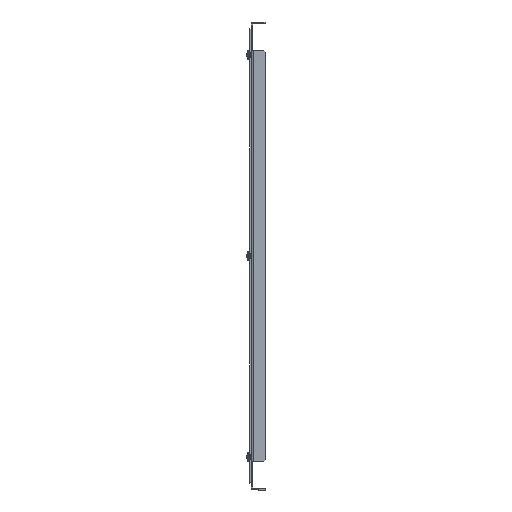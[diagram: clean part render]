
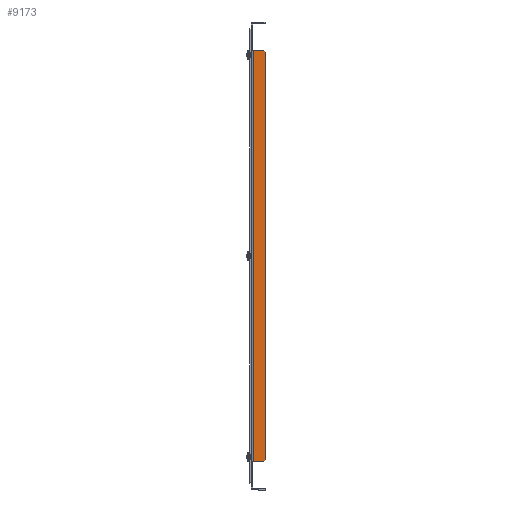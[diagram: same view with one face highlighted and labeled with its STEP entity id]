
A CAD part, left-side view. The second image highlights one B-rep face of the part: STEP entity #9173.
In plain terms, the highlighted planar face has unit normal (-1, 0, 0).
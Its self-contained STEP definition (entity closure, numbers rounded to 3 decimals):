
#263 = LINE ( 'NONE', #2356, #5939 ) ;
#474 = CARTESIAN_POINT ( 'NONE',  ( -14., -2.1, 218. ) ) ;
#625 = LINE ( 'NONE', #1698, #6523 ) ;
#645 = EDGE_CURVE ( 'NONE', #4083, #6155, #5982, .T. ) ;
#665 = PLANE ( 'NONE',  #4617 ) ;
#741 = ORIENTED_EDGE ( 'NONE', *, *, #9908, .F. ) ;
#805 = DIRECTION ( 'NONE',  ( 0., -1., 0. ) ) ;
#838 = CARTESIAN_POINT ( 'NONE',  ( -14., -1.5, 218. ) ) ;
#855 = DIRECTION ( 'NONE',  ( 0., 0., -1. ) ) ;
#993 = EDGE_CURVE ( 'NONE', #9284, #7739, #5852, .T. ) ;
#1449 = DIRECTION ( 'NONE',  ( 1., 0., 0. ) ) ;
#1474 = ORIENTED_EDGE ( 'NONE', *, *, #3842, .T. ) ;
#1594 = CARTESIAN_POINT ( 'NONE',  ( -14., -15., 218. ) ) ;
#1602 = DIRECTION ( 'NONE',  ( 0., -0.707, 0.707 ) ) ;
#1698 = CARTESIAN_POINT ( 'NONE',  ( -14., -15., -216. ) ) ;
#2156 = FACE_OUTER_BOUND ( 'NONE', #6092, .T. ) ;
#2178 = VERTEX_POINT ( 'NONE', #9965 ) ;
#2356 = CARTESIAN_POINT ( 'NONE',  ( -14., -2.1, 218. ) ) ;
#3166 = CARTESIAN_POINT ( 'NONE',  ( -14., -15., 216. ) ) ;
#3234 = CARTESIAN_POINT ( 'NONE',  ( -14., -13., 218. ) ) ;
#3381 = ORIENTED_EDGE ( 'NONE', *, *, #4454, .F. ) ;
#3477 = DIRECTION ( 'NONE',  ( 0., 1., 0. ) ) ;
#3500 = CARTESIAN_POINT ( 'NONE',  ( -14., -15., -218. ) ) ;
#3842 = EDGE_CURVE ( 'NONE', #9284, #2178, #625, .T. ) ;
#3957 = LINE ( 'NONE', #8537, #10055 ) ;
#4062 = CARTESIAN_POINT ( 'NONE',  ( -14., -13., -218. ) ) ;
#4083 = VERTEX_POINT ( 'NONE', #474 ) ;
#4271 = LINE ( 'NONE', #1594, #8260 ) ;
#4454 = EDGE_CURVE ( 'NONE', #8576, #2178, #4271, .T. ) ;
#4617 = AXIS2_PLACEMENT_3D ( 'NONE', #7841, #1449, #7076 ) ;
#4804 = DIRECTION ( 'NONE',  ( 0., 0., 1. ) ) ;
#5042 = ORIENTED_EDGE ( 'NONE', *, *, #645, .F. ) ;
#5299 = ORIENTED_EDGE ( 'NONE', *, *, #7242, .T. ) ;
#5852 = LINE ( 'NONE', #3500, #9539 ) ;
#5939 = VECTOR ( 'NONE', #4804, 1000. ) ;
#5982 = LINE ( 'NONE', #838, #8073 ) ;
#6092 = EDGE_LOOP ( 'NONE', ( #10222, #1474, #3381, #5299, #5042, #741 ) ) ;
#6155 = VERTEX_POINT ( 'NONE', #3234 ) ;
#6523 = VECTOR ( 'NONE', #1602, 1000. ) ;
#7076 = DIRECTION ( 'NONE',  ( 0., 1., 0. ) ) ;
#7242 = EDGE_CURVE ( 'NONE', #8576, #6155, #3957, .T. ) ;
#7739 = VERTEX_POINT ( 'NONE', #10071 ) ;
#7841 = CARTESIAN_POINT ( 'NONE',  ( -14., 0., 0. ) ) ;
#8073 = VECTOR ( 'NONE', #805, 1000. ) ;
#8260 = VECTOR ( 'NONE', #855, 1000. ) ;
#8537 = CARTESIAN_POINT ( 'NONE',  ( -14., -13., 218. ) ) ;
#8576 = VERTEX_POINT ( 'NONE', #3166 ) ;
#9173 = ADVANCED_FACE ( 'NONE', ( #2156 ), #665, .F. ) ;
#9284 = VERTEX_POINT ( 'NONE', #4062 ) ;
#9324 = DIRECTION ( 'NONE',  ( 0., 0.707, 0.707 ) ) ;
#9539 = VECTOR ( 'NONE', #3477, 1000. ) ;
#9908 = EDGE_CURVE ( 'NONE', #7739, #4083, #263, .T. ) ;
#9965 = CARTESIAN_POINT ( 'NONE',  ( -14., -15., -216. ) ) ;
#10055 = VECTOR ( 'NONE', #9324, 1000. ) ;
#10071 = CARTESIAN_POINT ( 'NONE',  ( -14., -2.1, -218. ) ) ;
#10222 = ORIENTED_EDGE ( 'NONE', *, *, #993, .F. ) ;
